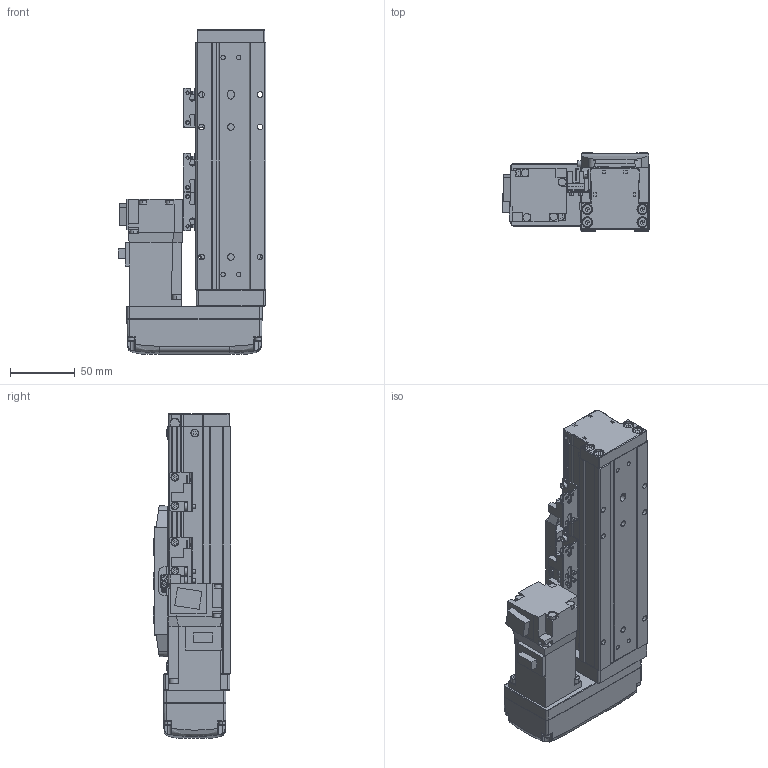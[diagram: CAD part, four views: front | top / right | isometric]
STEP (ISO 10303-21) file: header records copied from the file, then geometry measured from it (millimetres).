
FILE_DESCRIPTION (( 'STEP AP203' ), '1' );
FILE_NAME ('GTH5-50-BL-M10-C4.step', '2022-09-23T00:44:37', ( '微软用户' ), ( '微软中国' ), 'SwSTEP 2.0', 'SolidWorks 2020', '' );
FILE_SCHEMA (( 'CONFIG_CONTROL_DESIGN' ));
Length unit declared in the file: millimetre
Products named in the file (19): GTH50-026; GTH50-001_50; GTH50-024; GTH5-50-BL-M10-C4; GBT 70.1-M4×16; GBT 70.1-M2.5×6; GTH50-003; GTH50-028; GTH50-006; GTH50-013; GTH50-022-1; GTH50-004; GTH50-023; HG-KR13; GBT 70.3-M3℅6; GBT 70.1-M3℅6; GTH50-027-1_BTHA50-027-2; BTH-M3X5X6; GBT96.1-2002 3×0.8
Assembly tree (57 placements, depth 2):
  GTH5-50-BL-M10-C4
    GTH50-006
    GTH50-004
    GBT 70.3-M3℅6  x4
    BTH-M3X5X6  x8
    GTH50-001_50
    GBT 70.1-M4×16  x8
    GTH50-003
    GTH50-013
    GTH50-023  x3
    GBT 70.1-M3℅6  x12
    GBT96.1-2002 3×0.8  x6
    GTH50-024  x3
    GBT 70.1-M2.5×6  x2
    GTH50-028  x2
    GTH50-022-1
    HG-KR13
    GTH50-027-1_BTHA50-027-2
    GTH50-026
Bounding box: 113.8 x 60 x 250 mm (x, y, z)
Volume: 692201.3 mm3; surface area: 171236.7 mm2
Topology: 59 solids, 59 shells, 2140 faces, 4956 edges, 3036 vertices
Faces by surface type: plane 1142, cylinder 569, cone 219, torus 162, bspline 40, sphere 8
Entity records: 39420 total; most frequent: CARTESIAN_POINT 7827, DIRECTION 6045, ORIENTED_EDGE 5826, EDGE_CURVE 2913, AXIS2_PLACEMENT_3D 2092, LINE 1861, VECTOR 1861, VERTEX_POINT 1838
